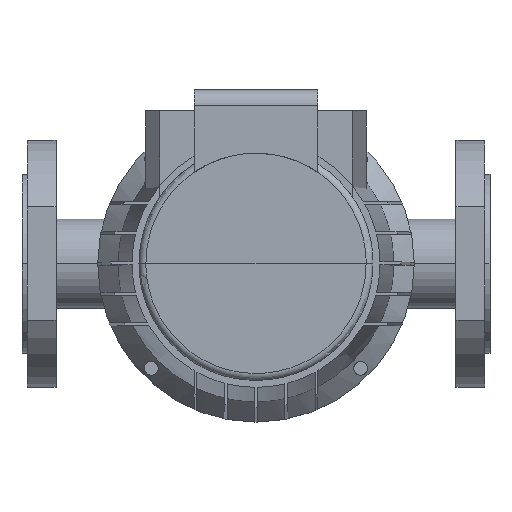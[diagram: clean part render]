
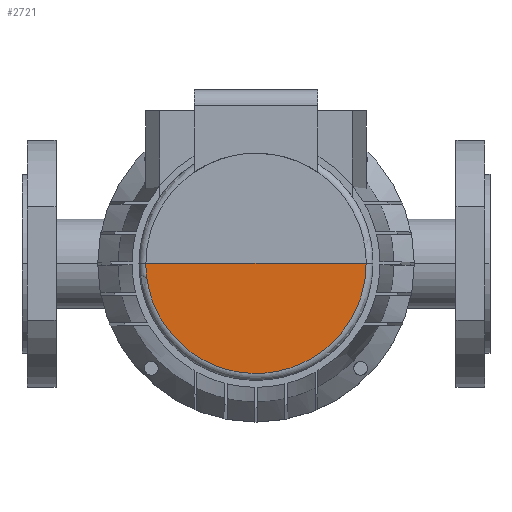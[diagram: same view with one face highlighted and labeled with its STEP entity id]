
A CAD part, top view. The second image highlights one B-rep face of the part: STEP entity #2721.
In plain terms, the highlighted planar face has unit normal (0, 0, 1).
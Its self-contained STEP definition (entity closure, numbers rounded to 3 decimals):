
#98=B_SPLINE_CURVE_WITH_KNOTS('',3,(#4225,#4226,#4227,#4228,#4229,#4230,
#4231,#4232,#4233,#4234,#4235),.UNSPECIFIED.,.F.,.F.,(4,1,1,1,1,1,1,1,4),
(0.,0.125,0.25,0.375,0.5,0.625,0.75,0.875,1.),.UNSPECIFIED.);
#195=PLANE('',#2931);
#308=FACE_OUTER_BOUND('',#483,.T.);
#483=EDGE_LOOP('',(#1891,#1892));
#656=LINE('',#4236,#860);
#860=VECTOR('',#3227,304.8);
#1173=VERTEX_POINT('',#4223);
#1174=VERTEX_POINT('',#4224);
#1447=EDGE_CURVE('',#1173,#1174,#98,.T.);
#1448=EDGE_CURVE('',#1174,#1173,#656,.T.);
#1891=ORIENTED_EDGE('',*,*,#1447,.F.);
#1892=ORIENTED_EDGE('',*,*,#1448,.F.);
#2721=ADVANCED_FACE('',(#308),#195,.T.);
#2931=AXIS2_PLACEMENT_3D('',#4222,#3225,#3226);
#3225=DIRECTION('center_axis',(0.,0.,1.));
#3226=DIRECTION('ref_axis',(1.,0.,0.));
#3227=DIRECTION('',(1.,0.,0.));
#4222=CARTESIAN_POINT('Origin',(27868.617,-38981.239,250.));
#4223=CARTESIAN_POINT('',(27948.617,-38981.239,250.));
#4224=CARTESIAN_POINT('',(27788.617,-38981.239,250.));
#4225=CARTESIAN_POINT('Ctrl Pts',(27948.617,-38981.239,250.));
#4226=CARTESIAN_POINT('Ctrl Pts',(27948.722,-38991.753,250.));
#4227=CARTESIAN_POINT('Ctrl Pts',(27944.402,-39012.631,250.));
#4228=CARTESIAN_POINT('Ctrl Pts',(27926.671,-39039.286,250.));
#4229=CARTESIAN_POINT('Ctrl Pts',(27900.025,-39057.072,250.));
#4230=CARTESIAN_POINT('Ctrl Pts',(27868.617,-39063.323,250.));
#4231=CARTESIAN_POINT('Ctrl Pts',(27837.208,-39057.072,250.));
#4232=CARTESIAN_POINT('Ctrl Pts',(27810.562,-39039.286,250.));
#4233=CARTESIAN_POINT('Ctrl Pts',(27792.831,-39012.631,250.));
#4234=CARTESIAN_POINT('Ctrl Pts',(27788.511,-38991.753,250.));
#4235=CARTESIAN_POINT('Ctrl Pts',(27788.617,-38981.239,250.));
#4236=CARTESIAN_POINT('',(27868.617,-38981.239,250.));
